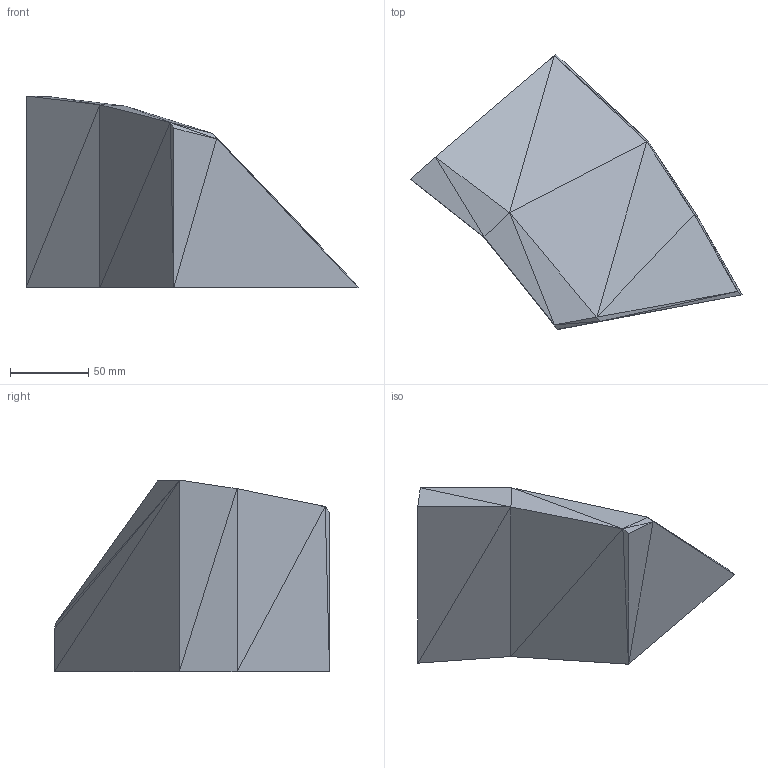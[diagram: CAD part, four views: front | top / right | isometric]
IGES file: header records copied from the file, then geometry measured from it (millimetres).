
Global section: file name: RRB Mould; native system: AutoCAD 2018 - English; preprocessor: Autodesk Translation Framework DWG producer (atf_dwg_producer); organization: unknown; date: 20180102.011244; units: millimetre
Bounding box: 212.1 x 175.79 x 122.64 mm (x, y, z)
Surface area: 81939.7 mm2 (no closed solid volume)
Topology: 0 solids, 0 shells, 42 faces, 189 edges, 252 vertices
Faces by surface type: bspline 42
